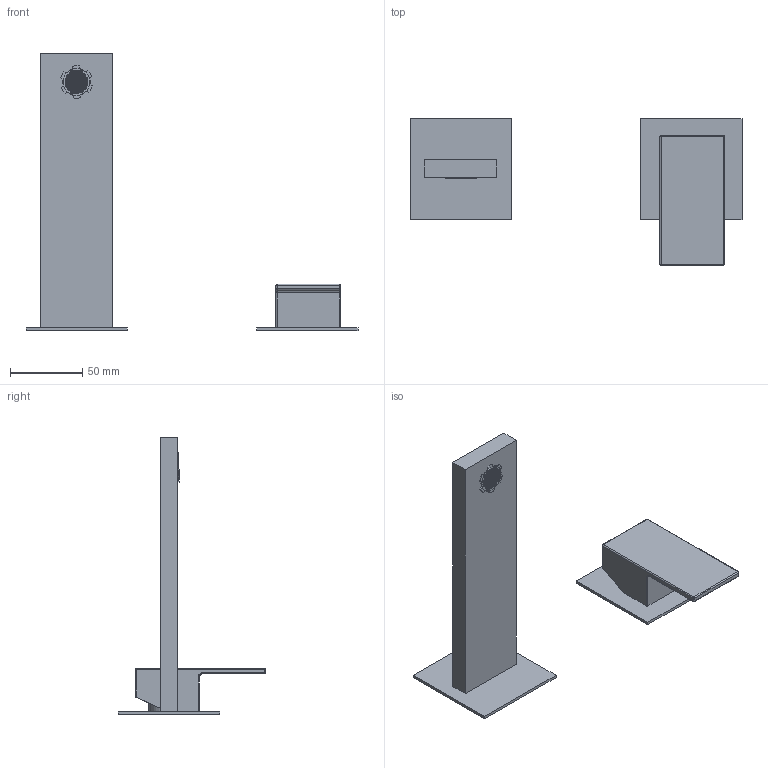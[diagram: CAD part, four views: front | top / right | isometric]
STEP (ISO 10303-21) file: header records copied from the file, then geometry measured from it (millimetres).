
FILE_DESCRIPTION (( 'STEP AP214' ), '1' );
FILE_NAME ('58328810 x architetti.STEP', '2025-01-20T13:02:33', ( '' ), ( '' ), 'SwSTEP 2.0', 'SolidWorks 2020', '' );
FILE_SCHEMA (( 'AUTOMOTIVE_DESIGN' ));
Length unit declared in the file: millimetre
Products named in the file (1): 58328810 x architetti
Bounding box: 230 x 101.88 x 192 mm (x, y, z)
Volume: 170910.3 mm3; surface area: 62669.7 mm2
Topology: 2 solids, 2 shells, 1176 faces, 2870 edges, 1905 vertices
Faces by surface type: plane 1114, cylinder 47, bspline 15
Entity records: 45256 total; most frequent: CARTESIAN_POINT 7164, ORIENTED_EDGE 5720, DIRECTION 5152, EDGE_CURVE 2860, VECTOR 2724, LINE 2724, VERTEX_POINT 1905, EDGE_LOOP 1399
